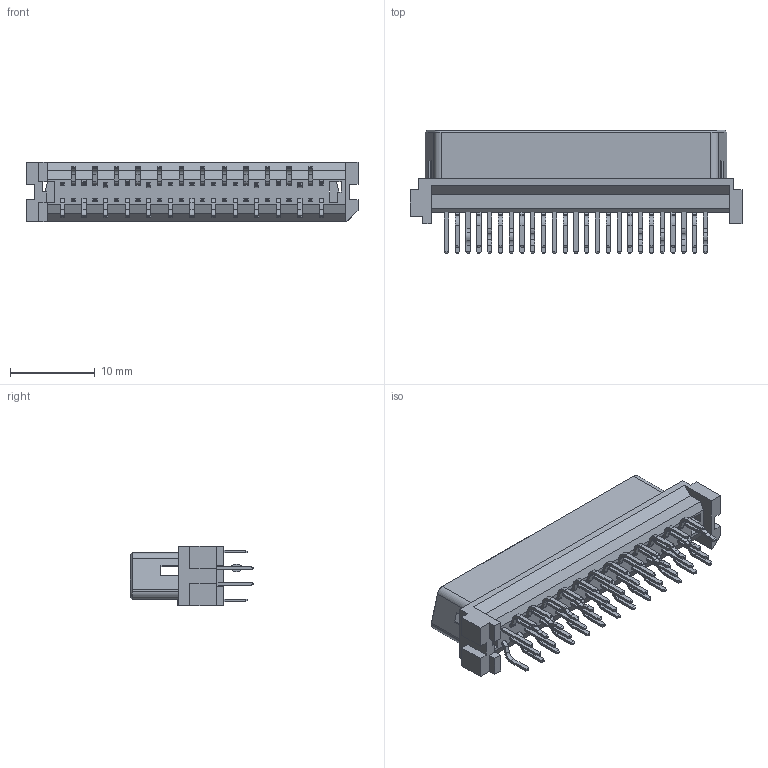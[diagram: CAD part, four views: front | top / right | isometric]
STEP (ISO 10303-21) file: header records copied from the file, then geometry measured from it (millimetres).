
FILE_DESCRIPTION (( 'STEP AP203' ), '1' );
FILE_NAME ('DHB-RB50-S13NNX-FA.STEP', '2022-03-25T02:40:17', ( '' ), ( '' ), 'SwSTEP 2.0', 'SolidWorks 2018', '' );
FILE_SCHEMA (( 'CONFIG_CONTROL_DESIGN' ));
Length unit declared in the file: millimetre
Products named in the file (1): DHB-RB50-S13NNX-FA
Bounding box: 39.08 x 14.5 x 7 mm (x, y, z)
Volume: 1390.1 mm3; surface area: 3319.7 mm2
Topology: 1 solids, 1 shells, 2191 faces, 6576 edges, 4381 vertices
Faces by surface type: plane 1683, cylinder 503, cone 5
Entity records: 73672 total; most frequent: CARTESIAN_POINT 13449, ORIENTED_EDGE 13152, DIRECTION 11921, EDGE_CURVE 6576, LINE 5415, VECTOR 5415, VERTEX_POINT 4381, AXIS2_PLACEMENT_3D 3253
